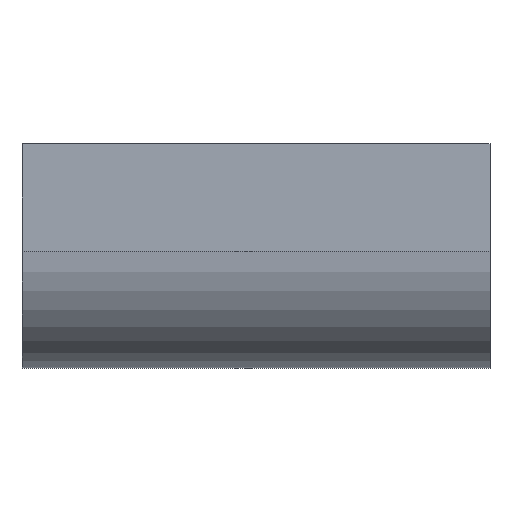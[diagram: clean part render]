
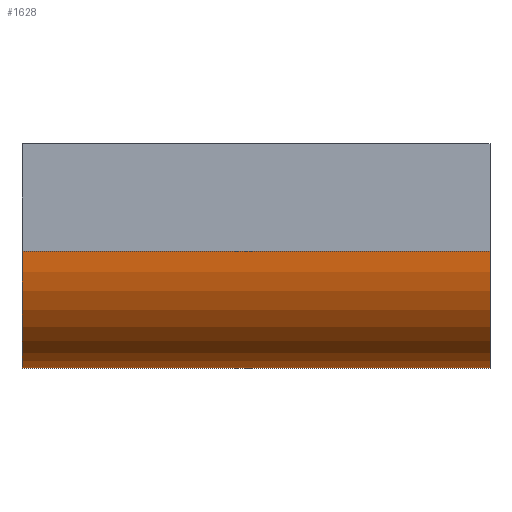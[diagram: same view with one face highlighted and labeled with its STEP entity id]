
A CAD part, front view. The second image highlights one B-rep face of the part: STEP entity #1628.
In plain terms, the highlighted cylindrical face has radius 125 mm (diameter 250 mm), a partial arc.
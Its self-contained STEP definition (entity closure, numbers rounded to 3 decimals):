
#88 = EDGE_CURVE ( 'NONE', #391, #777, #231, .T. ) ;
#143 = CARTESIAN_POINT ( 'NONE',  ( 250., 50., -240. ) ) ;
#231 = CIRCLE ( 'NONE', #1135, 125. ) ;
#279 = DIRECTION ( 'NONE',  ( -1., 0., 0. ) ) ;
#310 = CYLINDRICAL_SURFACE ( 'NONE', #686, 125. ) ;
#343 = CARTESIAN_POINT ( 'NONE',  ( -250., 50., -240. ) ) ;
#363 = CARTESIAN_POINT ( 'NONE',  ( 250., 50., -240. ) ) ;
#370 = LINE ( 'NONE', #363, #976 ) ;
#391 = VERTEX_POINT ( 'NONE', #970 ) ;
#397 = EDGE_CURVE ( 'NONE', #777, #799, #370, .T. ) ;
#503 = ORIENTED_EDGE ( 'NONE', *, *, #1214, .T. ) ;
#660 = AXIS2_PLACEMENT_3D ( 'NONE', #1426, #679, #1187 ) ;
#679 = DIRECTION ( 'NONE',  ( 1., 0., 0. ) ) ;
#686 = AXIS2_PLACEMENT_3D ( 'NONE', #1569, #1438, #803 ) ;
#777 = VERTEX_POINT ( 'NONE', #143 ) ;
#796 = EDGE_CURVE ( 'NONE', #1331, #799, #1327, .T. ) ;
#799 = VERTEX_POINT ( 'NONE', #343 ) ;
#803 = DIRECTION ( 'NONE',  ( 0., 0., 1. ) ) ;
#960 = CARTESIAN_POINT ( 'NONE',  ( 250., 50., -115. ) ) ;
#970 = CARTESIAN_POINT ( 'NONE',  ( 250., -75., -115. ) ) ;
#976 = VECTOR ( 'NONE', #1097, 1000. ) ;
#992 = VECTOR ( 'NONE', #279, 1000. ) ;
#1029 = LINE ( 'NONE', #1446, #992 ) ;
#1097 = DIRECTION ( 'NONE',  ( -1., 0., 0. ) ) ;
#1132 = CARTESIAN_POINT ( 'NONE',  ( -250., -75., -115. ) ) ;
#1135 = AXIS2_PLACEMENT_3D ( 'NONE', #960, #1478, #1416 ) ;
#1184 = ORIENTED_EDGE ( 'NONE', *, *, #88, .F. ) ;
#1187 = DIRECTION ( 'NONE',  ( 0., 0., 1. ) ) ;
#1214 = EDGE_CURVE ( 'NONE', #391, #1331, #1029, .T. ) ;
#1264 = ORIENTED_EDGE ( 'NONE', *, *, #397, .F. ) ;
#1327 = CIRCLE ( 'NONE', #660, 125. ) ;
#1331 = VERTEX_POINT ( 'NONE', #1132 ) ;
#1416 = DIRECTION ( 'NONE',  ( 0., 0., 1. ) ) ;
#1426 = CARTESIAN_POINT ( 'NONE',  ( -250., 50., -115. ) ) ;
#1438 = DIRECTION ( 'NONE',  ( -1., 0., 0. ) ) ;
#1446 = CARTESIAN_POINT ( 'NONE',  ( 250., -75., -115. ) ) ;
#1478 = DIRECTION ( 'NONE',  ( 1., 0., 0. ) ) ;
#1492 = EDGE_LOOP ( 'NONE', ( #1665, #1264, #1184, #503 ) ) ;
#1569 = CARTESIAN_POINT ( 'NONE',  ( 250., 50., -115. ) ) ;
#1584 = FACE_OUTER_BOUND ( 'NONE', #1492, .T. ) ;
#1628 = ADVANCED_FACE ( 'NONE', ( #1584 ), #310, .T. ) ;
#1665 = ORIENTED_EDGE ( 'NONE', *, *, #796, .T. ) ;
